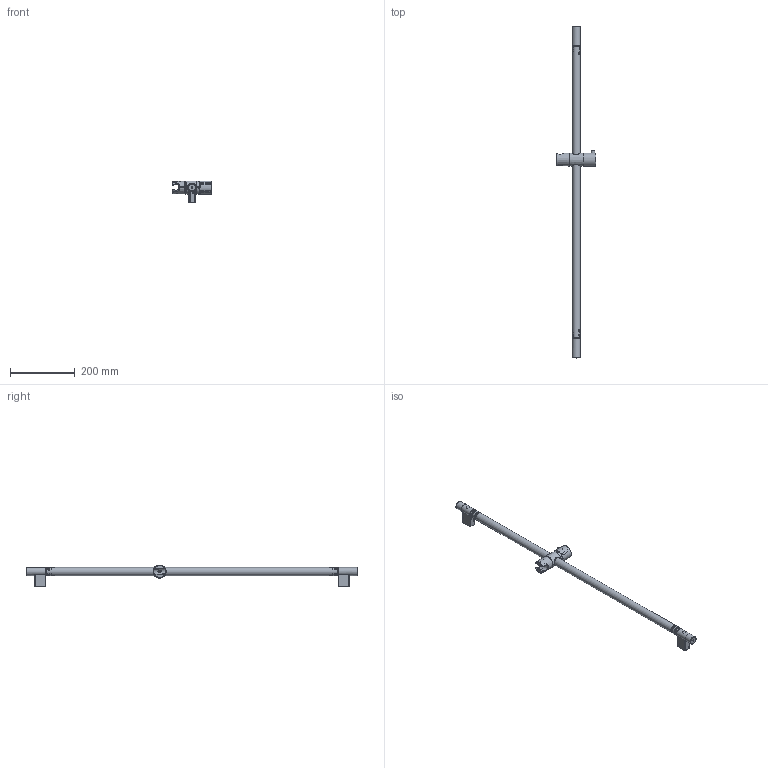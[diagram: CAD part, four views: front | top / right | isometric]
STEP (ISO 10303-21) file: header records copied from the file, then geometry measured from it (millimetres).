
FILE_DESCRIPTION(/* description */ (''),/* implementation_level */ '2;1');
FILE_NAME(/* name */ 'c:\worker\convert-fusion-r09\tmp\job-1\5\output\files\e8f396f1-0234-4782-a3d7-b32ce8b531db\401ce824-ef30-4f54-b372-ef29d1a69692.stp',/* time_stamp */ '2019-12-14T15:48:01+00:00',/* author */ (''),/* organization */ (''),/* preprocessor_version */ 'ST-DEVELOPER v18',/* originating_system */ 'Autodesk Translation Framework v8.12.0.6',/* authorisation */ '');
FILE_SCHEMA (('AUTOMOTIVE_DESIGN { 1 0 10303 214 3 1 1 }'));
Length unit declared in the file: millimetre
Products named in the file (1): !DR09
Bounding box: 122.15 x 1023.4 x 67.5 mm (x, y, z)
Volume: 156384.4 mm3; surface area: 261640.4 mm2
Topology: 17 solids, 17 shells, 747 faces, 2028 edges, 1360 vertices
Faces by surface type: plane 466, cylinder 178, cone 41, bspline 36, torus 17, sphere 9
Full cylindrical faces by diameter (mm): 1.55 x2, 3.5 x8, 4 x2, 5 x3, 7.2 x1, 9.9 x1, 11 x1, 11.5 x1, 12 x1, 14.6 x1, 15.8 x2, 16.9 x2, 19.8 x4, 20.9 x2, 23.4 x6, 24 x1, 25 x5, 25.3 x1, 27.3 x1, 27.9 x2, 32.8 x1, 34 x2, 34.8 x1, 34.85 x1, 34.9 x1, 35.6 x1, 40 x2
Entity records: 34679 total; most frequent: CARTESIAN_POINT 15641, ORIENTED_EDGE 4054, DIRECTION 3857, EDGE_CURVE 2027, AXIS2_PLACEMENT_3D 1361, VERTEX_POINT 1360, LINE 1135, VECTOR 1135
